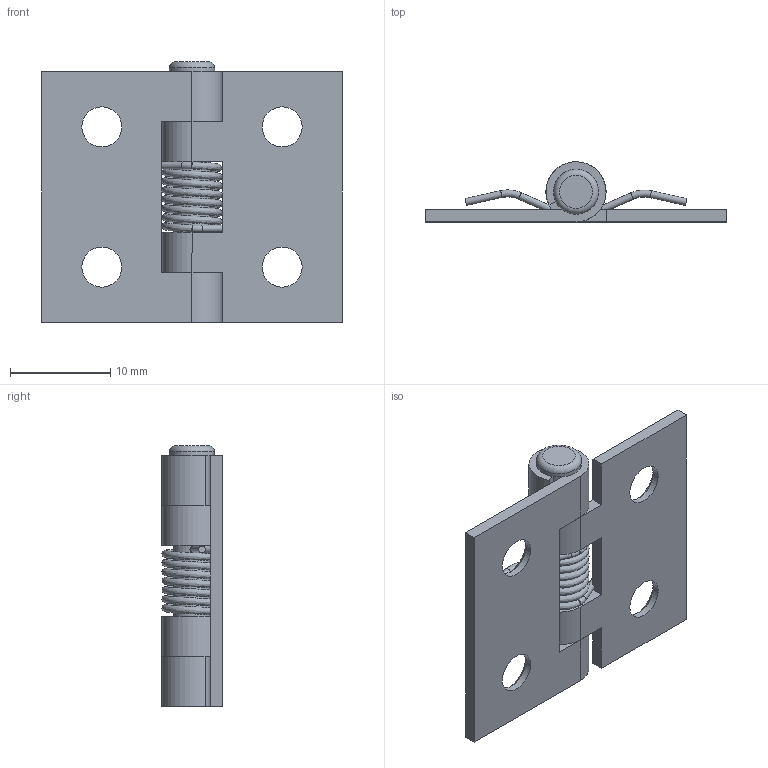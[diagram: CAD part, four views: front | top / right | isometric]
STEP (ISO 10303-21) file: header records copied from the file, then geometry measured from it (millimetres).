
FILE_DESCRIPTION(/* description */ (''),/* implementation_level */ '2;1');
FILE_NAME(/* name */ '\\NAS\db20\HS2530-12\DR_HS2530-12.stp',/* time_stamp */ '2017-08-21T15:39:46+09:00',/* author */ ('user'),/* organization */ (''),/* preprocessor_version */ 'ST-DEVELOPER v15.6',/* originating_system */ 'Autodesk Inventor 2015',/* authorisation */ '');
FILE_SCHEMA (('AUTOMOTIVE_DESIGN { 1 0 10303 214 3 1 1 }'));
Length unit declared in the file: millimetre
Products named in the file (3): DR_HS2530-12-P; DR_HS2530-12-P2; DR_HS2530-12
Bounding box: 30 x 6 x 26 mm (x, y, z)
Volume: 1308.3 mm3; surface area: 2658.9 mm2
Topology: 4 solids, 4 shells, 61 faces, 144 edges, 92 vertices
Faces by surface type: plane 29, cylinder 22, torus 5, cone 4, bspline 1
Full cylindrical faces by diameter (mm): 0.7 x6, 3.6 x1, 4 x4, 4.5 x1
Entity records: 2533 total; most frequent: CARTESIAN_POINT 1128, DIRECTION 292, ORIENTED_EDGE 236, EDGE_CURVE 118, AXIS2_PLACEMENT_3D 112, EDGE_LOOP 91, VERTEX_POINT 87, LINE 68
